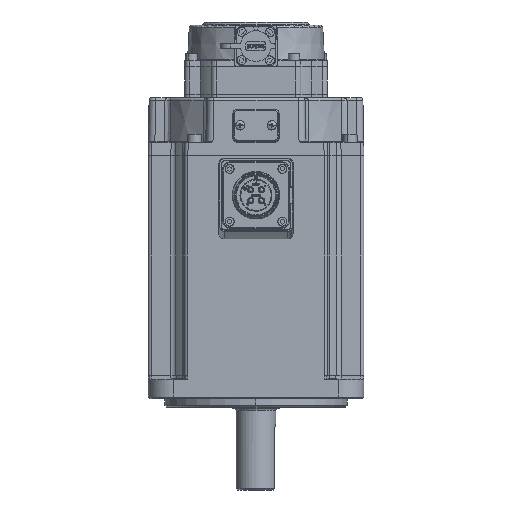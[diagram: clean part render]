
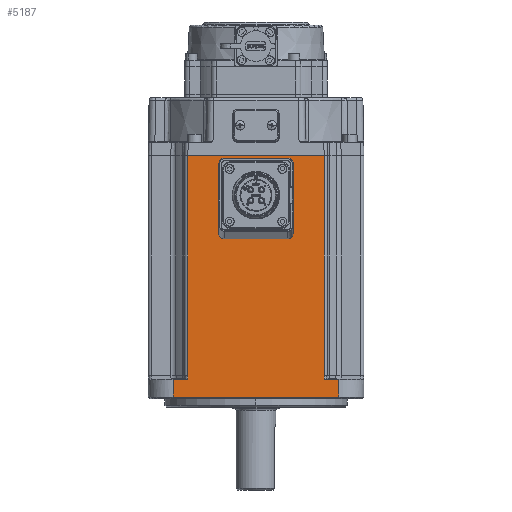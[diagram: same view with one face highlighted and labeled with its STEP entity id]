
A CAD part, left-side view. The second image highlights one B-rep face of the part: STEP entity #5187.
In plain terms, the highlighted planar face has unit normal (-1, 0, 0).
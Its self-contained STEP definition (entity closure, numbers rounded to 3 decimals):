
#1892 = CARTESIAN_POINT ( 'NONE',  ( -65., -45.287, -68.613 ) ) ;
#4282 = CARTESIAN_POINT ( 'NONE',  ( -65., -43., 64.75 ) ) ;
#5187 = ADVANCED_FACE ( 'NONE', ( #97211 ), #98333, .F. ) ;
#5967 = ORIENTED_EDGE ( 'NONE', *, *, #38860, .F. ) ;
#7135 = CARTESIAN_POINT ( 'NONE',  ( -65., 50., 64.75 ) ) ;
#9054 = VECTOR ( 'NONE', #15392, 1000. ) ;
#10654 = CARTESIAN_POINT ( 'NONE',  ( -65., 41.035, -67.75 ) ) ;
#11210 = DIRECTION ( 'NONE',  ( 0., 0., -1. ) ) ;
#12235 = CARTESIAN_POINT ( 'NONE',  ( -65., -43., 64.75 ) ) ;
#13125 = EDGE_CURVE ( 'NONE', #63330, #28385, #108351, .T. ) ;
#15392 = DIRECTION ( 'NONE',  ( 0., -1., 0. ) ) ;
#15462 = ORIENTED_EDGE ( 'NONE', *, *, #13125, .T. ) ;
#16174 = CARTESIAN_POINT ( 'NONE',  ( -65., 41.035, 64.75 ) ) ;
#16933 = VERTEX_POINT ( 'NONE', #101359 ) ;
#17029 = CARTESIAN_POINT ( 'NONE',  ( -65., -40.607, -70.089 ) ) ;
#17141 = VECTOR ( 'NONE', #42633, 1000. ) ;
#19710 = ORIENTED_EDGE ( 'NONE', *, *, #35593, .T. ) ;
#20979 = DIRECTION ( 'NONE',  ( 1., 0., 0. ) ) ;
#22231 = ORIENTED_EDGE ( 'NONE', *, *, #83649, .T. ) ;
#22268 = VERTEX_POINT ( 'NONE', #74690 ) ;
#23095 = VECTOR ( 'NONE', #99143, 1000. ) ;
#25228 = ORIENTED_EDGE ( 'NONE', *, *, #100664, .T. ) ;
#25993 = CARTESIAN_POINT ( 'NONE',  ( -65., 50., -80.75 ) ) ;
#28385 = VERTEX_POINT ( 'NONE', #102420 ) ;
#28551 = LINE ( 'NONE', #86991, #52750 ) ;
#28637 = ORIENTED_EDGE ( 'NONE', *, *, #109142, .F. ) ;
#30601 = LINE ( 'NONE', #12235, #106151 ) ;
#31262 = LINE ( 'NONE', #65179, #23095 ) ;
#35593 = EDGE_CURVE ( 'NONE', #50929, #63330, #99525, .T. ) ;
#35833 = DIRECTION ( 'NONE',  ( 0., -1., 0.017 ) ) ;
#37373 = EDGE_CURVE ( 'NONE', #100425, #67307, #30601, .T. ) ;
#38466 = EDGE_LOOP ( 'NONE', ( #22231, #93876, #5967, #19710, #15462, #44256, #28637, #25228, #89643, #65939 ) ) ;
#38860 = EDGE_CURVE ( 'NONE', #50929, #16933, #94847, .T. ) ;
#40283 = CARTESIAN_POINT ( 'NONE',  ( -65., 41.035, 64.75 ) ) ;
#42493 = VERTEX_POINT ( 'NONE', #90040 ) ;
#42633 = DIRECTION ( 'NONE',  ( 0., -1., -0.018 ) ) ;
#44256 = ORIENTED_EDGE ( 'NONE', *, *, #78874, .T. ) ;
#44547 = CARTESIAN_POINT ( 'NONE',  ( -65., 50., -70.247 ) ) ;
#48864 = DIRECTION ( 'NONE',  ( 0., 0., -1. ) ) ;
#50929 = VERTEX_POINT ( 'NONE', #44547 ) ;
#52750 = VECTOR ( 'NONE', #69753, 1000. ) ;
#53548 = VECTOR ( 'NONE', #73556, 1000. ) ;
#56697 = DIRECTION ( 'NONE',  ( 0., -1., 0. ) ) ;
#60155 = CARTESIAN_POINT ( 'NONE',  ( -65., -41.035, -67.75 ) ) ;
#63330 = VERTEX_POINT ( 'NONE', #25993 ) ;
#64214 = VERTEX_POINT ( 'NONE', #73659 ) ;
#64902 = VECTOR ( 'NONE', #106892, 1000. ) ;
#64920 = DIRECTION ( 'NONE',  ( 0., 1., 0. ) ) ;
#65179 = CARTESIAN_POINT ( 'NONE',  ( -65., -50., 64.75 ) ) ;
#65939 = ORIENTED_EDGE ( 'NONE', *, *, #37373, .F. ) ;
#67026 = VECTOR ( 'NONE', #48864, 1000. ) ;
#67307 = VERTEX_POINT ( 'NONE', #95000 ) ;
#69753 = DIRECTION ( 'NONE',  ( 0., 0., 1. ) ) ;
#73556 = DIRECTION ( 'NONE',  ( 0., 0., -1. ) ) ;
#73659 = CARTESIAN_POINT ( 'NONE',  ( -65., -41.035, -70.096 ) ) ;
#74267 = VECTOR ( 'NONE', #35833, 1000. ) ;
#74690 = CARTESIAN_POINT ( 'NONE',  ( -65., 41.035, -67.75 ) ) ;
#78874 = EDGE_CURVE ( 'NONE', #28385, #42493, #31262, .T. ) ;
#79598 = LINE ( 'NONE', #10654, #81276 ) ;
#81276 = VECTOR ( 'NONE', #11210, 1000. ) ;
#83179 = LINE ( 'NONE', #89645, #64902 ) ;
#83649 = EDGE_CURVE ( 'NONE', #100425, #22268, #92422, .T. ) ;
#86991 = CARTESIAN_POINT ( 'NONE',  ( -65., -41.035, 64.75 ) ) ;
#89643 = ORIENTED_EDGE ( 'NONE', *, *, #107264, .T. ) ;
#89645 = CARTESIAN_POINT ( 'NONE',  ( -65., -41.035, 64.75 ) ) ;
#90040 = CARTESIAN_POINT ( 'NONE',  ( -65., -50., -70.256 ) ) ;
#92422 = LINE ( 'NONE', #16174, #53548 ) ;
#92792 = VERTEX_POINT ( 'NONE', #60155 ) ;
#93298 = LINE ( 'NONE', #17029, #17141 ) ;
#93876 = ORIENTED_EDGE ( 'NONE', *, *, #102090, .T. ) ;
#94847 = LINE ( 'NONE', #1892, #74267 ) ;
#95000 = CARTESIAN_POINT ( 'NONE',  ( -65., -41.035, 64.75 ) ) ;
#97211 = FACE_OUTER_BOUND ( 'NONE', #38466, .T. ) ;
#98333 = PLANE ( 'NONE',  #106684 ) ;
#99143 = DIRECTION ( 'NONE',  ( 0., 0., 1. ) ) ;
#99525 = LINE ( 'NONE', #7135, #67026 ) ;
#100425 = VERTEX_POINT ( 'NONE', #40283 ) ;
#100664 = EDGE_CURVE ( 'NONE', #64214, #92792, #28551, .T. ) ;
#101359 = CARTESIAN_POINT ( 'NONE',  ( -65., 41.035, -70.094 ) ) ;
#102090 = EDGE_CURVE ( 'NONE', #22268, #16933, #79598, .T. ) ;
#102420 = CARTESIAN_POINT ( 'NONE',  ( -65., -50., -80.75 ) ) ;
#106151 = VECTOR ( 'NONE', #56697, 1000. ) ;
#106684 = AXIS2_PLACEMENT_3D ( 'NONE', #4282, #20979, #64920 ) ;
#106892 = DIRECTION ( 'NONE',  ( 0., 0., 1. ) ) ;
#107264 = EDGE_CURVE ( 'NONE', #92792, #67307, #83179, .T. ) ;
#108351 = LINE ( 'NONE', #108914, #9054 ) ;
#108914 = CARTESIAN_POINT ( 'NONE',  ( -65., -50., -80.75 ) ) ;
#109142 = EDGE_CURVE ( 'NONE', #64214, #42493, #93298, .T. ) ;
